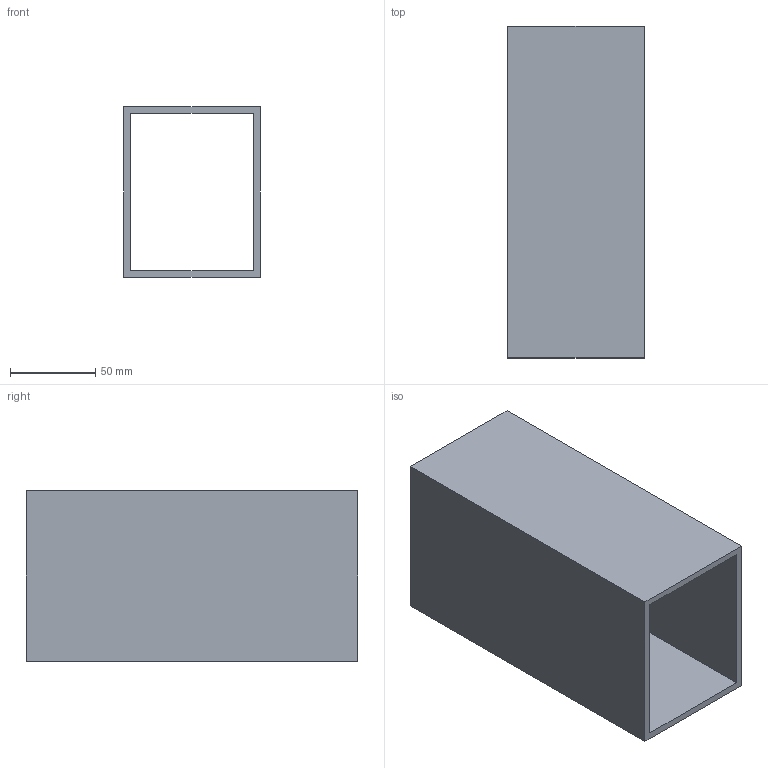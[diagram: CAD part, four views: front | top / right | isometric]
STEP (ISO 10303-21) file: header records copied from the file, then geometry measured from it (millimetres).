
FILE_DESCRIPTION(('golf model'),'2;1');
FILE_NAME('golf','',(''),(''),'golf_step_io','golf','');
FILE_SCHEMA(('AUTOMOTIVE_DESIGN { 1 0 10303 214 1 1 1 1 }'));
Length unit declared in the file: millimetre
Products named in the file (2): ASSEMBLY; floor_frame.cross_4
Assembly tree (1 placements, depth 2):
  ASSEMBLY
    floor_frame.cross_4
Bounding box: 80 x 194.28 x 100 mm (x, y, z)
Volume: 267335.8 mm3; surface area: 136419.9 mm2
Topology: 1 solids, 1 shells, 10 faces, 24 edges, 16 vertices
Faces by surface type: plane 10
Entity records: 326 total; most frequent: CARTESIAN_POINT 52, DIRECTION 48, ORIENTED_EDGE 48, VECTOR 24, LINE 24, EDGE_CURVE 24, VERTEX_POINT 16, AXIS2_PLACEMENT_3D 12
